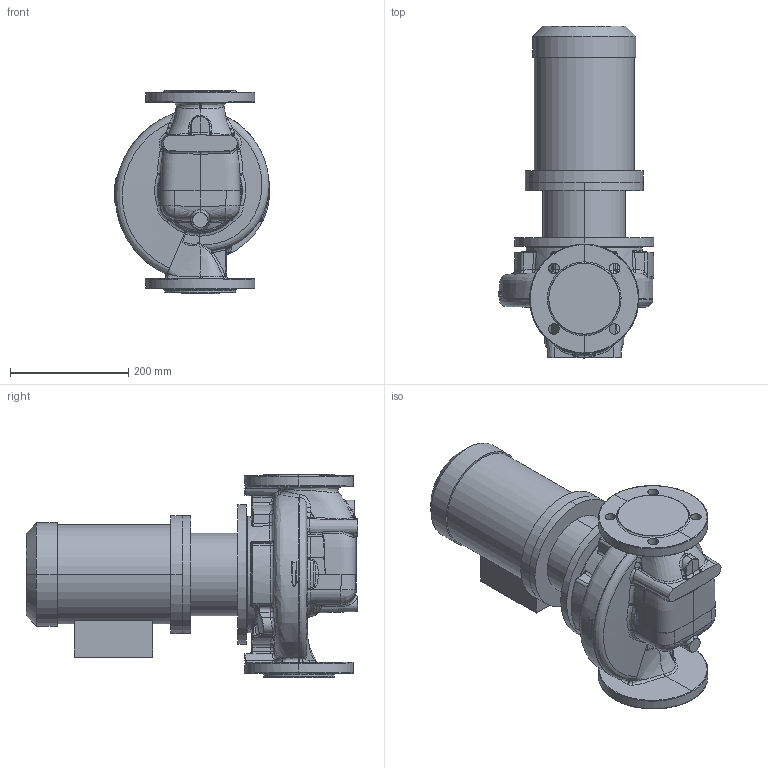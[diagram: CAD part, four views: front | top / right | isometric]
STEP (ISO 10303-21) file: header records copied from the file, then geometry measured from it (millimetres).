
FILE_DESCRIPTION (( 'STEP AP214' ), '1' );
FILE_NAME ('KRL 65-160-4-1,1.STEP', '2026-03-23T07:50:55', ( '' ), ( '' ), 'SwSTEP 2.0', 'SolidWorks 2016', '' );
FILE_SCHEMA (( 'AUTOMOTIVE_DESIGN' ));
Length unit declared in the file: millimetre
Products named in the file (1): KRL 65-160-4-1,1
Bounding box: 263.79 x 562.3 x 345 mm (x, y, z)
Volume: 17440575 mm3; surface area: 837193.4 mm2
Topology: 4 solids, 4 shells, 642 faces, 1526 edges, 886 vertices
Faces by surface type: bspline 357, cylinder 106, plane 88, sphere 42, cone 31, torus 18
Entity records: 67941 total; most frequent: CARTESIAN_POINT 49083, ORIENTED_EDGE 3008, DIRECTION 1705, EDGE_CURVE 1504, VERTEX_POINT 886, AXIS2_PLACEMENT_3D 752, B_SPLINE_CURVE_WITH_KNOTS 711, EDGE_LOOP 666
